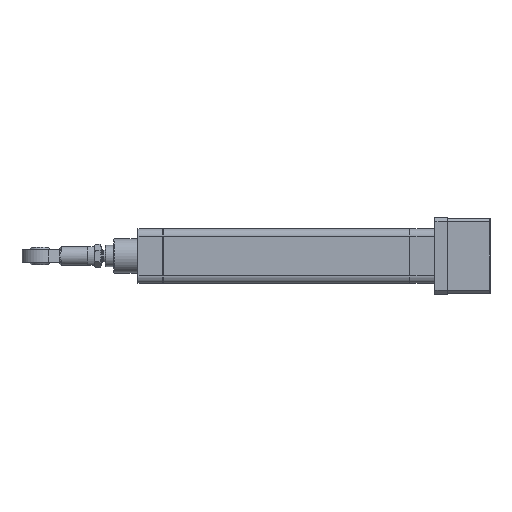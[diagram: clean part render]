
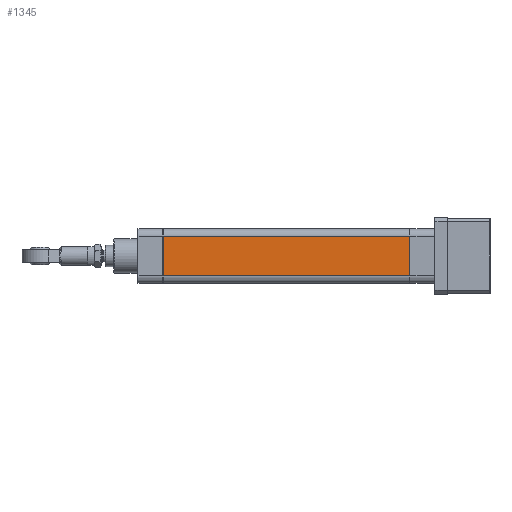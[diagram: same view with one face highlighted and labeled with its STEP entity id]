
A CAD part, left-side view. The second image highlights one B-rep face of the part: STEP entity #1345.
In plain terms, the highlighted planar face has unit normal (-1, 0, 0).
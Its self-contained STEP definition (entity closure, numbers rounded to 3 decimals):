
#1284 = VERTEX_POINT ( 'NONE', #9373 ) ;
#1285 = VERTEX_POINT ( 'NONE', #9372 ) ;
#1328 = VERTEX_POINT ( 'NONE', #9488 ) ;
#1329 = ORIENTED_EDGE ( 'NONE', *, *, #1330, .T. ) ;
#1330 = EDGE_CURVE ( 'NONE', #1328, #1285, #9487, .T. ) ;
#1342 = EDGE_CURVE ( 'NONE', #1285, #1284, #9469, .T. ) ;
#1345 = ADVANCED_FACE ( 'NONE', ( #9460 ), #9459, .F. ) ;
#1346 = EDGE_LOOP ( 'NONE', ( #1347, #1348, #1351, #1329 ) ) ;
#1347 = ORIENTED_EDGE ( 'NONE', *, *, #1342, .T. ) ;
#1348 = ORIENTED_EDGE ( 'NONE', *, *, #1349, .T. ) ;
#1349 = EDGE_CURVE ( 'NONE', #1284, #1350, #9517, .T. ) ;
#1350 = VERTEX_POINT ( 'NONE', #9513 ) ;
#1351 = ORIENTED_EDGE ( 'NONE', *, *, #1352, .F. ) ;
#1352 = EDGE_CURVE ( 'NONE', #1328, #1350, #9512, .T. ) ;
#9372 = CARTESIAN_POINT ( 'NONE',  ( -32., 289.7, -23.25 ) ) ;
#9373 = CARTESIAN_POINT ( 'NONE',  ( -32., 0.3, -23.25 ) ) ;
#9458 = AXIS2_PLACEMENT_3D ( 'NONE', #9520, #9519, #9518 ) ;
#9459 = PLANE ( 'NONE',  #9458 ) ;
#9460 = FACE_OUTER_BOUND ( 'NONE', #1346, .T. ) ;
#9466 = DIRECTION ( 'NONE',  ( 0., -1., 0. ) ) ;
#9467 = VECTOR ( 'NONE', #9466, 1000. ) ;
#9468 = CARTESIAN_POINT ( 'NONE',  ( -32., 290., -23.25 ) ) ;
#9469 = LINE ( 'NONE', #9468, #9467 ) ;
#9484 = DIRECTION ( 'NONE',  ( 0., 0., -1. ) ) ;
#9485 = VECTOR ( 'NONE', #9484, 1000. ) ;
#9486 = CARTESIAN_POINT ( 'NONE',  ( -32., 289.7, -23.25 ) ) ;
#9487 = LINE ( 'NONE', #9486, #9485 ) ;
#9488 = CARTESIAN_POINT ( 'NONE',  ( -32., 289.7, 23.25 ) ) ;
#9509 = DIRECTION ( 'NONE',  ( 0., -1., 0. ) ) ;
#9510 = VECTOR ( 'NONE', #9509, 1000. ) ;
#9511 = CARTESIAN_POINT ( 'NONE',  ( -32., 290., 23.25 ) ) ;
#9512 = LINE ( 'NONE', #9511, #9510 ) ;
#9513 = CARTESIAN_POINT ( 'NONE',  ( -32., 0.3, 23.25 ) ) ;
#9514 = DIRECTION ( 'NONE',  ( 0., 0., 1. ) ) ;
#9515 = VECTOR ( 'NONE', #9514, 1000. ) ;
#9516 = CARTESIAN_POINT ( 'NONE',  ( -32., 0.3, 23.25 ) ) ;
#9517 = LINE ( 'NONE', #9516, #9515 ) ;
#9518 = DIRECTION ( 'NONE',  ( 0., 0., -1. ) ) ;
#9519 = DIRECTION ( 'NONE',  ( 1., 0., 0. ) ) ;
#9520 = CARTESIAN_POINT ( 'NONE',  ( -32., 290., -23.25 ) ) ;
